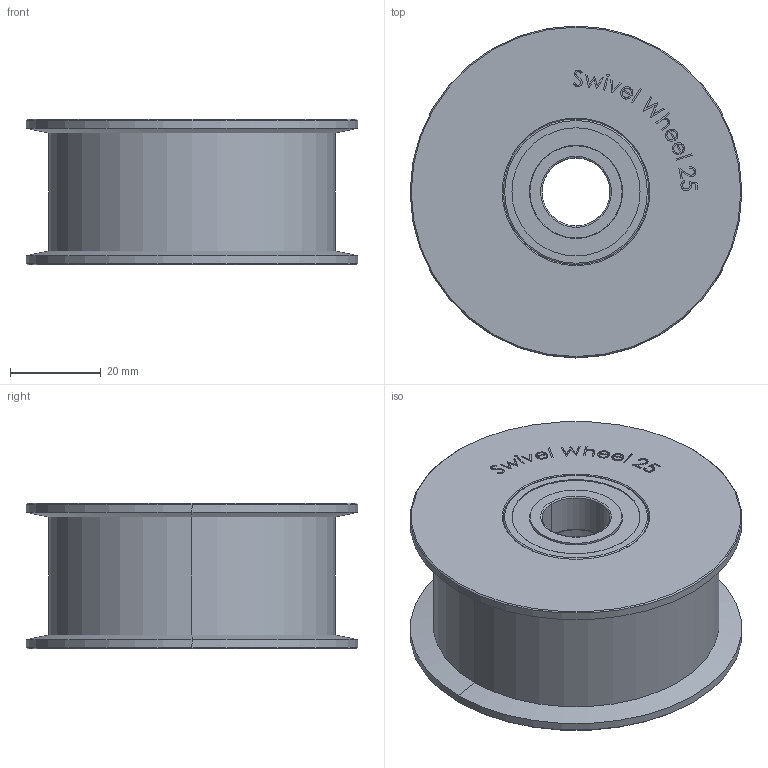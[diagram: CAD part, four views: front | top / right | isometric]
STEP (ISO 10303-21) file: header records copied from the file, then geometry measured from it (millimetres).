
FILE_DESCRIPTION (( 'STEP AP214' ), '1' );
FILE_NAME ('3.2017 Taittopyörä hammashihnalle 25.STEP', '2025-09-23T07:50:03', ( '' ), ( '' ), 'SwSTEP 2.0', 'SolidWorks 2025', '' );
FILE_SCHEMA (( 'AUTOMOTIVE_DESIGN' ));
Length unit declared in the file: millimetre
Products named in the file (1): 3.2017 Taittopyörä hammashihnalle 25
Bounding box: 73 x 73 x 32 mm (x, y, z)
Volume: 89195.1 mm3; surface area: 28738.5 mm2
Topology: 23 solids, 23 shells, 327 faces, 822 edges, 534 vertices
Faces by surface type: plane 115, bspline 72, cylinder 56, sphere 36, torus 36, cone 12
Entity records: 16240 total; most frequent: CARTESIAN_POINT 5372, ORIENTED_EDGE 1464, DIRECTION 1320, EDGE_CURVE 732, VERTEX_POINT 480, AXIS2_PLACEMENT_3D 476, VECTOR 368, LINE 368
